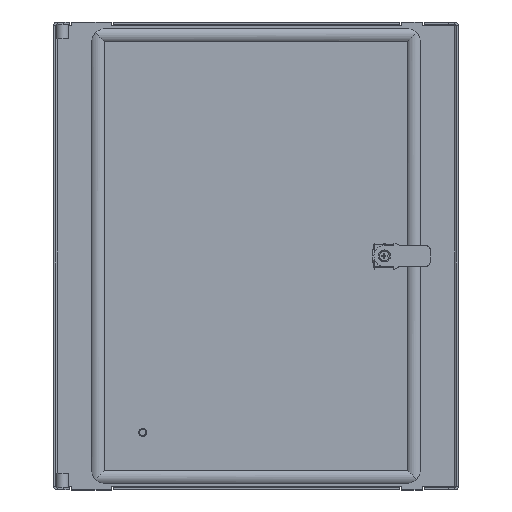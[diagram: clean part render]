
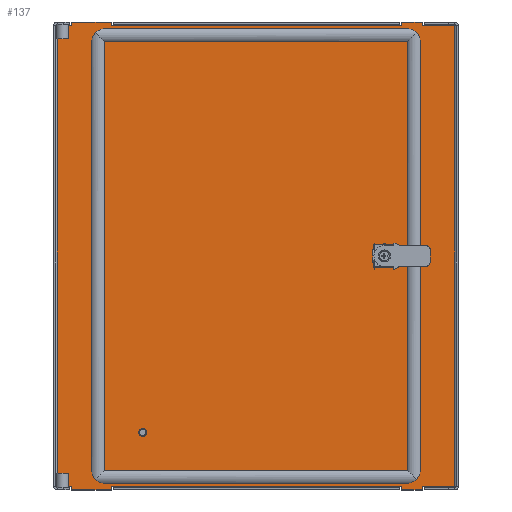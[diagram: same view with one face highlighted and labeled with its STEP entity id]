
A CAD part, top view. The second image highlights one B-rep face of the part: STEP entity #137.
In plain terms, the highlighted planar face has unit normal (0, 0, 1).
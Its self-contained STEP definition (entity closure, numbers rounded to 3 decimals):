
#137=ADVANCED_FACE('',(#702,#704,#706),#708,.T.);
#702=FACE_BOUND('',#703,.T.);
#703=EDGE_LOOP('',(#3435,#3436,#3437,#3438,#3439,#3440,#3441,#3442,#3443,#3444,#3445,
#3446,#3447,#3448,#3449,#3450,#3451,#3452,#3453,#3454,#3455,#3456,#3457,#3458,#3459,
#3460,#3461,#3462));
#704=FACE_BOUND('',#705,.T.);
#705=EDGE_LOOP('',(#3463));
#706=FACE_BOUND('',#707,.T.);
#707=EDGE_LOOP('',(#3464,#3465,#3466,#3467));
#708=PLANE('',#709);
#709=AXIS2_PLACEMENT_3D('',#710,#711,#712);
#710=CARTESIAN_POINT('',(0.,0.,2.));
#711=DIRECTION('',(0.,0.,1.));
#712=DIRECTION('',(1.,0.,0.));
#3435=ORIENTED_EDGE('',*,*,#5245,.F.);
#3436=ORIENTED_EDGE('',*,*,#5225,.F.);
#3437=ORIENTED_EDGE('',*,*,#5152,.F.);
#3438=ORIENTED_EDGE('',*,*,#5246,.F.);
#3439=ORIENTED_EDGE('',*,*,#5247,.F.);
#3440=ORIENTED_EDGE('',*,*,#5248,.F.);
#3441=ORIENTED_EDGE('',*,*,#5249,.F.);
#3442=ORIENTED_EDGE('',*,*,#5221,.F.);
#3443=ORIENTED_EDGE('',*,*,#5156,.F.);
#3444=ORIENTED_EDGE('',*,*,#5250,.F.);
#3445=ORIENTED_EDGE('',*,*,#5251,.F.);
#3446=ORIENTED_EDGE('',*,*,#5252,.F.);
#3447=ORIENTED_EDGE('',*,*,#5253,.F.);
#3448=ORIENTED_EDGE('',*,*,#5254,.F.);
#3449=ORIENTED_EDGE('',*,*,#5255,.F.);
#3450=ORIENTED_EDGE('',*,*,#5176,.F.);
#3451=ORIENTED_EDGE('',*,*,#5149,.F.);
#3452=ORIENTED_EDGE('',*,*,#5256,.T.);
#3453=ORIENTED_EDGE('',*,*,#5257,.T.);
#3454=ORIENTED_EDGE('',*,*,#5258,.T.);
#3455=ORIENTED_EDGE('',*,*,#5143,.F.);
#3456=ORIENTED_EDGE('',*,*,#5174,.F.);
#3457=ORIENTED_EDGE('',*,*,#5141,.F.);
#3458=ORIENTED_EDGE('',*,*,#5259,.T.);
#3459=ORIENTED_EDGE('',*,*,#5260,.T.);
#3460=ORIENTED_EDGE('',*,*,#5261,.T.);
#3461=ORIENTED_EDGE('',*,*,#5135,.F.);
#3462=ORIENTED_EDGE('',*,*,#5182,.F.);
#3463=ORIENTED_EDGE('',*,*,#5133,.F.);
#3464=ORIENTED_EDGE('',*,*,#5262,.F.);
#3465=ORIENTED_EDGE('',*,*,#5263,.F.);
#3466=ORIENTED_EDGE('',*,*,#5264,.F.);
#3467=ORIENTED_EDGE('',*,*,#5265,.F.);
#5133=EDGE_CURVE('',#6052,#6052,#6053,.T.);
#5135=EDGE_CURVE('',#6056,#6057,#6058,.T.);
#5141=EDGE_CURVE('',#6067,#6069,#6070,.T.);
#5143=EDGE_CURVE('',#6072,#6073,#6074,.T.);
#5149=EDGE_CURVE('',#6083,#6085,#6086,.T.);
#5152=EDGE_CURVE('',#6088,#6091,#6092,.T.);
#5156=EDGE_CURVE('',#6096,#6099,#6100,.T.);
#5174=EDGE_CURVE('',#6069,#6072,#6129,.T.);
#5176=EDGE_CURVE('',#6085,#6132,#6133,.T.);
#5182=EDGE_CURVE('',#6141,#6056,#6143,.T.);
#5221=EDGE_CURVE('',#6099,#6206,#6207,.T.);
#5225=EDGE_CURVE('',#6091,#6213,#6214,.T.);
#5245=EDGE_CURVE('',#6213,#6141,#6244,.T.);
#5246=EDGE_CURVE('',#6245,#6088,#6246,.T.);
#5247=EDGE_CURVE('',#6247,#6245,#6248,.T.);
#5248=EDGE_CURVE('',#6249,#6247,#6250,.T.);
#5249=EDGE_CURVE('',#6206,#6249,#6251,.T.);
#5250=EDGE_CURVE('',#6252,#6096,#6253,.T.);
#5251=EDGE_CURVE('',#6254,#6252,#6255,.T.);
#5252=EDGE_CURVE('',#6256,#6254,#6257,.T.);
#5253=EDGE_CURVE('',#6258,#6256,#6259,.T.);
#5254=EDGE_CURVE('',#6260,#6258,#6261,.T.);
#5255=EDGE_CURVE('',#6132,#6260,#6262,.T.);
#5256=EDGE_CURVE('',#6083,#6263,#6264,.T.);
#5257=EDGE_CURVE('',#6263,#6265,#6266,.T.);
#5258=EDGE_CURVE('',#6265,#6073,#6267,.T.);
#5259=EDGE_CURVE('',#6067,#6268,#6269,.T.);
#5260=EDGE_CURVE('',#6268,#6270,#6271,.T.);
#5261=EDGE_CURVE('',#6270,#6057,#6272,.T.);
#5262=EDGE_CURVE('',#6273,#6274,#6275,.T.);
#5263=EDGE_CURVE('',#6276,#6273,#6277,.T.);
#5264=EDGE_CURVE('',#6278,#6276,#6279,.T.);
#5265=EDGE_CURVE('',#6274,#6278,#6280,.T.);
#6052=VERTEX_POINT('',#7567);
#6053=CIRCLE('',#7568,0.5);
#6056=VERTEX_POINT('',#7577);
#6057=VERTEX_POINT('',#7578);
#6058=LINE('',#7579,#7580);
#6067=VERTEX_POINT('',#7598);
#6069=VERTEX_POINT('',#7602);
#6070=LINE('',#7603,#7604);
#6072=VERTEX_POINT('',#7609);
#6073=VERTEX_POINT('',#7610);
#6074=LINE('',#7611,#7612);
#6083=VERTEX_POINT('',#7630);
#6085=VERTEX_POINT('',#7634);
#6086=LINE('',#7635,#7636);
#6088=VERTEX_POINT('',#7641);
#6091=VERTEX_POINT('',#7646);
#6092=LINE('',#7647,#7648);
#6096=VERTEX_POINT('',#7657);
#6099=VERTEX_POINT('',#7662);
#6100=LINE('',#7663,#7664);
#6129=LINE('',#7762,#7763);
#6132=VERTEX_POINT('',#7770);
#6133=LINE('',#7771,#7772);
#6141=VERTEX_POINT('',#7803);
#6143=LINE('',#7820,#7821);
#6206=VERTEX_POINT('',#7979);
#6207=LINE('',#7980,#7981);
#6213=VERTEX_POINT('',#7996);
#6214=LINE('',#7997,#7998);
#6244=LINE('',#8080,#8081);
#6245=VERTEX_POINT('',#8083);
#6246=LINE('',#8084,#8085);
#6247=VERTEX_POINT('',#8087);
#6248=LINE('',#8088,#8089);
#6249=VERTEX_POINT('',#8091);
#6250=LINE('',#8092,#8093);
#6251=LINE('',#8095,#8096);
#6252=VERTEX_POINT('',#8098);
#6253=LINE('',#8099,#8100);
#6254=VERTEX_POINT('',#8102);
#6255=LINE('',#8103,#8104);
#6256=VERTEX_POINT('',#8106);
#6257=LINE('',#8107,#8108);
#6258=VERTEX_POINT('',#8110);
#6259=LINE('',#8111,#8112);
#6260=VERTEX_POINT('',#8114);
#6261=LINE('',#8115,#8116);
#6262=LINE('',#8118,#8119);
#6263=VERTEX_POINT('',#8121);
#6264=LINE('',#8122,#8123);
#6265=VERTEX_POINT('',#8125);
#6266=LINE('',#8126,#8127);
#6267=LINE('',#8129,#8130);
#6268=VERTEX_POINT('',#8132);
#6269=LINE('',#8133,#8134);
#6270=VERTEX_POINT('',#8136);
#6271=LINE('',#8137,#8138);
#6272=LINE('',#8140,#8141);
#6273=VERTEX_POINT('',#8143);
#6274=VERTEX_POINT('',#8144);
#6275=LINE('',#8145,#8146);
#6276=VERTEX_POINT('',#8148);
#6277=LINE('',#8149,#8150);
#6278=VERTEX_POINT('',#8152);
#6279=LINE('',#8153,#8154);
#6280=LINE('',#8156,#8157);
#7567=CARTESIAN_POINT('',(-107.7,-168.5,2.));
#7568=AXIS2_PLACEMENT_3D('',#7569,#7570,#7571);
#7569=CARTESIAN_POINT('',(-108.2,-168.5,2.));
#7570=DIRECTION('',(0.,0.,1.));
#7571=DIRECTION('',(-1.,0.,0.));
#7577=CARTESIAN_POINT('',(160.7,-220.1,2.));
#7578=CARTESIAN_POINT('',(158.7,-220.1,2.));
#7579=CARTESIAN_POINT('',(160.7,-220.1,2.));
#7580=VECTOR('',#7581,1.);
#7581=DIRECTION('',(-1.,0.,0.));
#7598=CARTESIAN_POINT('',(139.2,-220.1,2.));
#7602=CARTESIAN_POINT('',(137.2,-220.1,2.));
#7603=CARTESIAN_POINT('',(139.2,-220.1,2.));
#7604=VECTOR('',#7605,1.);
#7605=DIRECTION('',(-1.,0.,0.));
#7609=CARTESIAN_POINT('',(-136.2,-220.1,2.));
#7610=CARTESIAN_POINT('',(-138.2,-220.1,2.));
#7611=CARTESIAN_POINT('',(-136.2,-220.1,2.));
#7612=VECTOR('',#7613,1.);
#7613=DIRECTION('',(-1.,0.,0.));
#7630=CARTESIAN_POINT('',(-176.2,-220.1,2.));
#7634=CARTESIAN_POINT('',(-178.2,-220.1,2.));
#7635=CARTESIAN_POINT('',(-176.2,-220.1,2.));
#7636=VECTOR('',#7637,1.);
#7637=DIRECTION('',(-1.,0.,0.));
#7641=CARTESIAN_POINT('',(158.7,220.1,2.));
#7646=CARTESIAN_POINT('',(160.7,220.1,2.));
#7647=CARTESIAN_POINT('',(158.7,220.1,2.));
#7648=VECTOR('',#7649,1.);
#7649=DIRECTION('',(1.,0.,0.));
#7657=CARTESIAN_POINT('',(-138.2,220.1,2.));
#7662=CARTESIAN_POINT('',(-136.2,220.1,2.));
#7663=CARTESIAN_POINT('',(-138.2,220.1,2.));
#7664=VECTOR('',#7665,1.);
#7665=DIRECTION('',(1.,0.,0.));
#7762=CARTESIAN_POINT('',(137.2,-220.1,2.));
#7763=VECTOR('',#7764,1.);
#7764=DIRECTION('',(-1.,0.,0.));
#7770=CARTESIAN_POINT('',(-189.8,-220.1,2.));
#7771=CARTESIAN_POINT('',(-178.2,-220.1,2.));
#7772=VECTOR('',#7773,1.);
#7773=DIRECTION('',(-1.,0.,0.));
#7803=CARTESIAN_POINT('',(189.8,-220.1,2.));
#7820=CARTESIAN_POINT('',(189.8,-220.1,2.));
#7821=VECTOR('',#7822,1.);
#7822=DIRECTION('',(-1.,0.,0.));
#7979=CARTESIAN_POINT('',(137.2,220.1,2.));
#7980=CARTESIAN_POINT('',(-136.2,220.1,2.));
#7981=VECTOR('',#7982,1.);
#7982=DIRECTION('',(1.,0.,0.));
#7996=CARTESIAN_POINT('',(189.8,220.1,2.));
#7997=CARTESIAN_POINT('',(160.7,220.1,2.));
#7998=VECTOR('',#7999,1.);
#7999=DIRECTION('',(1.,0.,0.));
#8080=CARTESIAN_POINT('',(189.8,220.1,2.));
#8081=VECTOR('',#8082,1.);
#8082=DIRECTION('',(0.,-1.,0.));
#8083=CARTESIAN_POINT('',(158.7,223.5,2.));
#8084=CARTESIAN_POINT('',(158.7,223.5,2.));
#8085=VECTOR('',#8086,1.);
#8086=DIRECTION('',(0.,-1.,0.));
#8087=CARTESIAN_POINT('',(139.2,223.5,2.));
#8088=CARTESIAN_POINT('',(139.2,223.5,2.));
#8089=VECTOR('',#8090,1.);
#8090=DIRECTION('',(1.,0.,0.));
#8091=CARTESIAN_POINT('',(139.2,220.1,2.));
#8092=CARTESIAN_POINT('',(139.2,220.1,2.));
#8093=VECTOR('',#8094,1.);
#8094=DIRECTION('',(0.,1.,0.));
#8095=CARTESIAN_POINT('',(137.2,220.1,2.));
#8096=VECTOR('',#8097,1.);
#8097=DIRECTION('',(1.,0.,0.));
#8098=CARTESIAN_POINT('',(-138.2,223.5,2.));
#8099=CARTESIAN_POINT('',(-138.2,223.5,2.));
#8100=VECTOR('',#8101,1.);
#8101=DIRECTION('',(0.,-1.,0.));
#8102=CARTESIAN_POINT('',(-176.2,223.5,2.));
#8103=CARTESIAN_POINT('',(-176.2,223.5,2.));
#8104=VECTOR('',#8105,1.);
#8105=DIRECTION('',(1.,0.,0.));
#8106=CARTESIAN_POINT('',(-176.2,220.1,2.));
#8107=CARTESIAN_POINT('',(-176.2,220.1,2.));
#8108=VECTOR('',#8109,1.);
#8109=DIRECTION('',(0.,1.,0.));
#8110=CARTESIAN_POINT('',(-178.2,220.1,2.));
#8111=CARTESIAN_POINT('',(-178.2,220.1,2.));
#8112=VECTOR('',#8113,1.);
#8113=DIRECTION('',(1.,0.,0.));
#8114=CARTESIAN_POINT('',(-189.8,220.1,2.));
#8115=CARTESIAN_POINT('',(-189.8,220.1,2.));
#8116=VECTOR('',#8117,1.);
#8117=DIRECTION('',(1.,0.,0.));
#8118=CARTESIAN_POINT('',(-189.8,-220.1,2.));
#8119=VECTOR('',#8120,1.);
#8120=DIRECTION('',(0.,1.,0.));
#8121=CARTESIAN_POINT('',(-176.2,-223.5,2.));
#8122=CARTESIAN_POINT('',(-176.2,-220.1,2.));
#8123=VECTOR('',#8124,1.);
#8124=DIRECTION('',(0.,-1.,0.));
#8125=CARTESIAN_POINT('',(-138.2,-223.5,2.));
#8126=CARTESIAN_POINT('',(-176.2,-223.5,2.));
#8127=VECTOR('',#8128,1.);
#8128=DIRECTION('',(1.,0.,0.));
#8129=CARTESIAN_POINT('',(-138.2,-223.5,2.));
#8130=VECTOR('',#8131,1.);
#8131=DIRECTION('',(0.,1.,0.));
#8132=CARTESIAN_POINT('',(139.2,-223.5,2.));
#8133=CARTESIAN_POINT('',(139.2,-220.1,2.));
#8134=VECTOR('',#8135,1.);
#8135=DIRECTION('',(0.,-1.,0.));
#8136=CARTESIAN_POINT('',(158.7,-223.5,2.));
#8137=CARTESIAN_POINT('',(139.2,-223.5,2.));
#8138=VECTOR('',#8139,1.);
#8139=DIRECTION('',(1.,0.,0.));
#8140=CARTESIAN_POINT('',(158.7,-223.5,2.));
#8141=VECTOR('',#8142,1.);
#8142=DIRECTION('',(0.,1.,0.));
#8143=CARTESIAN_POINT('',(133.2,-10.6,2.));
#8144=CARTESIAN_POINT('',(133.2,10.6,2.));
#8145=CARTESIAN_POINT('',(133.2,-10.6,2.));
#8146=VECTOR('',#8147,1.);
#8147=DIRECTION('',(0.,1.,0.));
#8148=CARTESIAN_POINT('',(112.,-10.6,2.));
#8149=CARTESIAN_POINT('',(112.,-10.6,2.));
#8150=VECTOR('',#8151,1.);
#8151=DIRECTION('',(1.,0.,0.));
#8152=CARTESIAN_POINT('',(112.,10.6,2.));
#8153=CARTESIAN_POINT('',(112.,10.6,2.));
#8154=VECTOR('',#8155,1.);
#8155=DIRECTION('',(0.,-1.,0.));
#8156=CARTESIAN_POINT('',(133.2,10.6,2.));
#8157=VECTOR('',#8158,1.);
#8158=DIRECTION('',(-1.,0.,0.));
